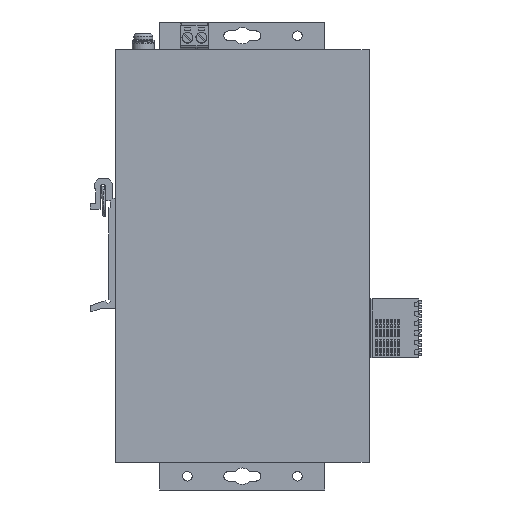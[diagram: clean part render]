
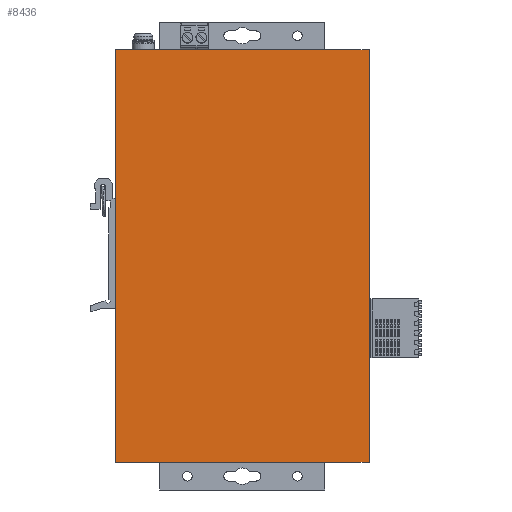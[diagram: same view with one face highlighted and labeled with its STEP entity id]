
A CAD part, left-side view. The second image highlights one B-rep face of the part: STEP entity #8436.
In plain terms, the highlighted planar face has unit normal (-1, 0, 0).
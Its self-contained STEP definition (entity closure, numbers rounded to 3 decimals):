
#459=CARTESIAN_POINT('',(0.,0.,150.));
#460=VERTEX_POINT('',#459);
#509=CARTESIAN_POINT('',(-0.,92.,150.));
#510=VERTEX_POINT('',#509);
#517=CARTESIAN_POINT('',(-0.,92.,150.));
#518=DIRECTION('',(0.,-1.,0.));
#519=VECTOR('',#518,92.);
#520=LINE('',#517,#519);
#521=EDGE_CURVE('',#510,#460,#520,.T.);
#7708=CARTESIAN_POINT('',(-0.,92.,-0.));
#7709=VERTEX_POINT('',#7708);
#7716=CARTESIAN_POINT('',(-0.,92.,150.));
#7717=DIRECTION('',(-0.,-0.,-1.));
#7718=VECTOR('',#7717,150.);
#7719=LINE('',#7716,#7718);
#7720=EDGE_CURVE('',#510,#7709,#7719,.T.);
#8086=CARTESIAN_POINT('',(0.,0.,0.));
#8087=VERTEX_POINT('',#8086);
#8101=CARTESIAN_POINT('',(0.,0.,0.));
#8102=DIRECTION('',(0.,0.,1.));
#8103=VECTOR('',#8102,150.);
#8104=LINE('',#8101,#8103);
#8105=EDGE_CURVE('',#8087,#460,#8104,.T.);
#8420=CARTESIAN_POINT('',(-0.,92.002,-0.));
#8421=DIRECTION('',(1.,0.,-0.));
#8422=DIRECTION('',(-0.,1.,-0.));
#8423=AXIS2_PLACEMENT_3D('',#8420,#8421,#8422);
#8424=PLANE('',#8423);
#8425=ORIENTED_EDGE('',*,*,#8105,.T.);
#8426=ORIENTED_EDGE('',*,*,#521,.F.);
#8427=ORIENTED_EDGE('',*,*,#7720,.T.);
#8428=CARTESIAN_POINT('',(-0.,92.,-0.));
#8429=DIRECTION('',(0.,-1.,0.));
#8430=VECTOR('',#8429,92.);
#8431=LINE('',#8428,#8430);
#8432=EDGE_CURVE('',#7709,#8087,#8431,.T.);
#8433=ORIENTED_EDGE('',*,*,#8432,.T.);
#8434=EDGE_LOOP('',(#8425,#8426,#8427,#8433));
#8435=FACE_BOUND('',#8434,.T.);
#8436=ADVANCED_FACE('',(#8435),#8424,.F.);
